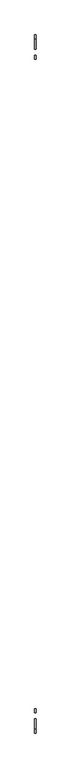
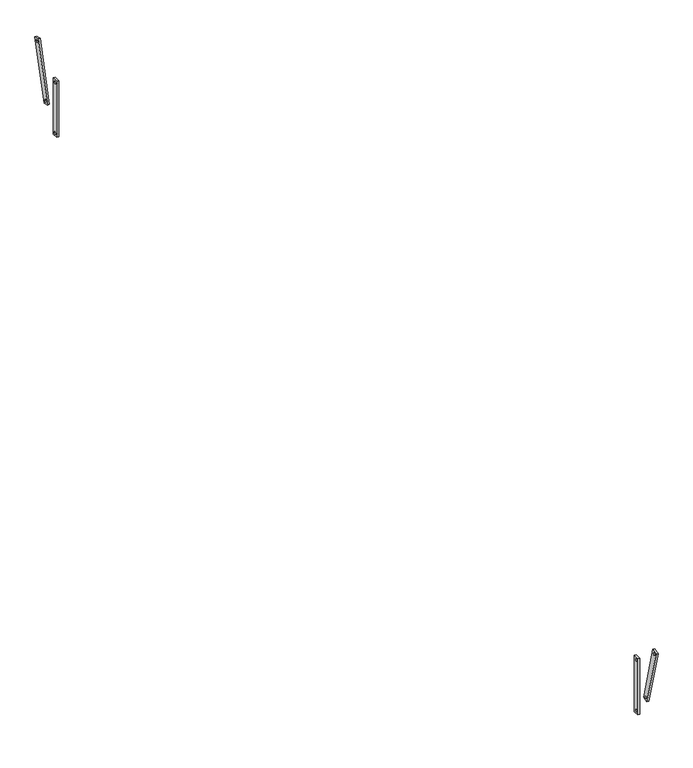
"""IFC4 building model written with IfcOpenShell, lengths in millimetres: proxy geometry, Modelos genéricos 292 : Modelos genéricos 278."""

from ifc_helpers import new_model, si_unit, point, frame, frame_2d, origin, place, context, project, spatial, polyline, circle_curve, trimmed, segment, composite_curve, outline, extrude, source, transform, mapped, element, save


def generic_models_2b8c0364(model_context):
    return source(origin(), model_context, "Body", "SweptSolid", [
        extrude(outline(polyline([(5318.6238165, 2800.0), (5318.6238165, 3200.0), (5358.6238165, 3200.0), (5358.6238165, 2800.0), (5318.6238165, 2800.0)]), holes=[composite_curve([segment(trimmed(circle_curve(frame_2d((5338.6238165, 3180.0)), 7.5), [point((5346.1238165, 3180.0))], [point((5331.1238165, 3180.0))], True, "CARTESIAN"), True, "CONTINUOUS"), segment(trimmed(circle_curve(frame_2d((5338.6238165, 3180.0)), 7.5), [point((5331.1238165, 3180.0))], [point((5346.1238165, 3180.0))], True, "CARTESIAN"), True, "CONTINUOUS")], self_intersect=False), composite_curve([segment(trimmed(circle_curve(frame_2d((5338.6238165, 2820.0)), 7.5), [point((5346.1238165, 2820.0))], [point((5331.1238165, 2820.0))], True, "CARTESIAN"), True, "CONTINUOUS"), segment(trimmed(circle_curve(frame_2d((5338.6238165, 2820.0)), 7.5), [point((5331.1238165, 2820.0))], [point((5346.1238165, 2820.0))], True, "CARTESIAN"), True, "CONTINUOUS")], self_intersect=False)]), frame((12933.4472467, 0.0, 0.0), z_axis=(1.0, 0.0, 0.0), x_axis=(0.0, 1.0, 0.0)), (0.0, 0.0, 1.0), 12.7),
        extrude(outline(polyline([(5424.7907615, 2966.5419368), (5533.4947604, 3372.2307838), (5572.1317934, 3361.878022), (5463.4277945, 2956.1891749), (5424.7907615, 2966.5419368)]), holes=[composite_curve([segment(trimmed(circle_curve(frame_2d((5547.636896, 3347.7358864)), 7.5), [point((5554.8813397, 3345.7947435))], [point((5540.3924523, 3349.6770292))], True, "CARTESIAN"), True, "CONTINUOUS"), segment(trimmed(circle_curve(frame_2d((5547.636896, 3347.7358864)), 7.5), [point((5540.3924523, 3349.6770292))], [point((5554.8813397, 3345.7947435))], True, "CARTESIAN"), True, "CONTINUOUS")], self_intersect=False), composite_curve([segment(trimmed(circle_curve(frame_2d((5449.2856589, 2980.6840724)), 7.5), [point((5456.5301026, 2978.7429295))], [point((5442.0412152, 2982.6252152))], True, "CARTESIAN"), True, "CONTINUOUS"), segment(trimmed(circle_curve(frame_2d((5449.2856589, 2980.6840724)), 7.5), [point((5442.0412152, 2982.6252152))], [point((5456.5301026, 2978.7429295))], True, "CARTESIAN"), True, "CONTINUOUS")], self_intersect=False)]), frame((12933.4472467, 0.0, 0.0), z_axis=(1.0, 0.0, 0.0), x_axis=(0.0, 1.0, 0.0)), (0.0, 0.0, 1.0), 12.7),
        extrude(outline(polyline([(-1421.3761835, 2800.0), (-1461.3761835, 2800.0), (-1461.3761835, 3200.0), (-1421.3761835, 3200.0), (-1421.3761835, 2800.0)]), holes=[composite_curve([segment(trimmed(circle_curve(frame_2d((-1441.3761835, 3180.0)), 7.5), [point((-1448.8761835, 3180.0))], [point((-1433.8761835, 3180.0))], True, "CARTESIAN"), True, "CONTINUOUS"), segment(trimmed(circle_curve(frame_2d((-1441.3761835, 3180.0)), 7.5), [point((-1433.8761835, 3180.0))], [point((-1448.8761835, 3180.0))], True, "CARTESIAN"), True, "CONTINUOUS")], self_intersect=False), composite_curve([segment(trimmed(circle_curve(frame_2d((-1441.3761835, 2820.0)), 7.5), [point((-1448.8761835, 2820.0))], [point((-1433.8761835, 2820.0))], True, "CARTESIAN"), True, "CONTINUOUS"), segment(trimmed(circle_curve(frame_2d((-1441.3761835, 2820.0)), 7.5), [point((-1433.8761835, 2820.0))], [point((-1448.8761835, 2820.0))], True, "CARTESIAN"), True, "CONTINUOUS")], self_intersect=False)]), frame((12933.4472467, 0.0, 0.0), z_axis=(1.0, 0.0, 0.0), x_axis=(0.0, 1.0, 0.0)), (0.0, 0.0, 1.0), 12.7),
        extrude(outline(polyline([(-1527.5431285, 2966.5419368), (-1566.1801615, 2956.1891749), (-1674.8841605, 3361.878022), (-1636.2471274, 3372.2307838), (-1527.5431285, 2966.5419368)]), holes=[composite_curve([segment(trimmed(circle_curve(frame_2d((-1650.389263, 3347.7358864)), 7.5), [point((-1657.6337067, 3345.7947435))], [point((-1643.1448193, 3349.6770292))], True, "CARTESIAN"), True, "CONTINUOUS"), segment(trimmed(circle_curve(frame_2d((-1650.389263, 3347.7358864)), 7.5), [point((-1643.1448193, 3349.6770292))], [point((-1657.6337067, 3345.7947435))], True, "CARTESIAN"), True, "CONTINUOUS")], self_intersect=False), composite_curve([segment(trimmed(circle_curve(frame_2d((-1552.0380259, 2980.6840724)), 7.5), [point((-1559.2824696, 2978.7429295))], [point((-1544.7935822, 2982.6252152))], True, "CARTESIAN"), True, "CONTINUOUS"), segment(trimmed(circle_curve(frame_2d((-1552.0380259, 2980.6840724)), 7.5), [point((-1544.7935822, 2982.6252152))], [point((-1559.2824696, 2978.7429295))], True, "CARTESIAN"), True, "CONTINUOUS")], self_intersect=False)]), frame((12933.4472467, 0.0, 0.0), z_axis=(1.0, 0.0, 0.0), x_axis=(0.0, 1.0, 0.0)), (0.0, 0.0, 1.0), 12.7),
    ])


if __name__ == "__main__":
    model = new_model("IFC4")
    model_context = context("Model", 3, world=origin())
    ifc_project = project(units=[si_unit("LENGTHUNIT", "METRE", prefix="MILLI")], contexts=[model_context])
    site = spatial("IfcSite", under=ifc_project)
    building = spatial("IfcBuilding", under=site)
    placement = place(None, origin())
    generic_models_shape = generic_models_2b8c0364(model_context)
    element("IfcBuildingElementProxy", 1, Name="Modelos genéricos 292 : Modelos genéricos 278", ObjectType="Modelos genéricos 292 : Modelos genéricos 278", at=placement, inside=building, context=model_context, shape_type="MappedRepresentation", body=[
        mapped(generic_models_shape, transform((0.0, 0.0, 0.0), x_axis=(1.0, 0.0, 0.0), y_axis=(0.0, 1.0, 0.0), z_axis=(0.0, 0.0, 1.0))),
    ])
    save(model, "model.ifc")
